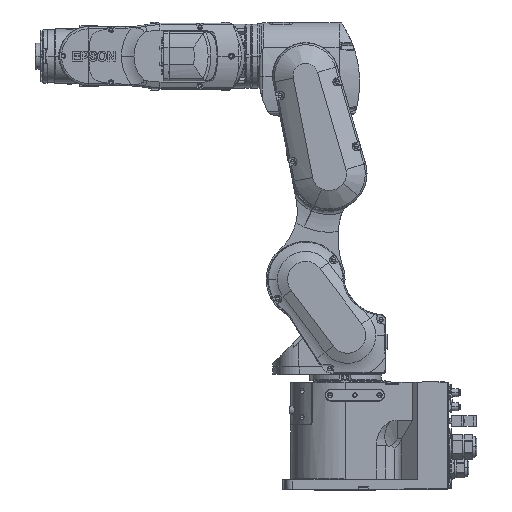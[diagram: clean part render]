
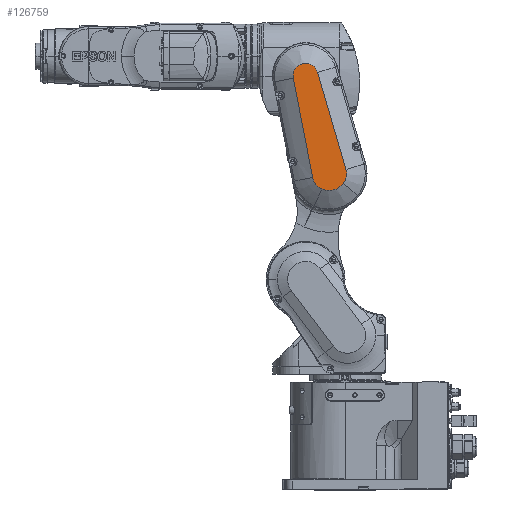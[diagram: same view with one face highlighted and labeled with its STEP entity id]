
A CAD part, top view. The second image highlights one B-rep face of the part: STEP entity #126759.
In plain terms, the highlighted planar face has unit normal (0, 0, 1).
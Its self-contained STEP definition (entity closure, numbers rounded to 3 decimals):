
#1969 = PLANE ( 'NONE',  #50852 ) ;
#8713 = CARTESIAN_POINT ( 'NONE',  ( 10.716, 155.267, 110. ) ) ;
#16676 = CIRCLE ( 'NONE', #130131, 23.991 ) ;
#18856 = CARTESIAN_POINT ( 'NONE',  ( 34.266, 159.843, 110. ) ) ;
#28558 = CARTESIAN_POINT ( 'NONE',  ( -18.644, 306.381, 110. ) ) ;
#29736 = VERTEX_POINT ( 'NONE', #168322 ) ;
#32246 = EDGE_CURVE ( 'NONE', #159462, #163701, #180164, .T. ) ;
#39326 = ORIENTED_EDGE ( 'NONE', *, *, #146916, .T. ) ;
#43942 = AXIS2_PLACEMENT_3D ( 'NONE', #80257, #79273, #124942 ) ;
#48838 = AXIS2_PLACEMENT_3D ( 'NONE', #64517, #61490, #184477 ) ;
#49805 = CARTESIAN_POINT ( 'NONE',  ( 38.41, 160.837, 110. ) ) ;
#49879 = VERTEX_POINT ( 'NONE', #69159 ) ;
#50852 = AXIS2_PLACEMENT_3D ( 'NONE', #63057, #125863, #187996 ) ;
#52900 = LINE ( 'NONE', #82286, #119099 ) ;
#58001 = CARTESIAN_POINT ( 'NONE',  ( 18.231, 315.323, 110. ) ) ;
#61490 = DIRECTION ( 'NONE',  ( 0., 0., 1. ) ) ;
#63057 = CARTESIAN_POINT ( 'NONE',  ( 24.508, 137.926, 110. ) ) ;
#64517 = CARTESIAN_POINT ( 'NONE',  ( 0.003, 309.993, 110. ) ) ;
#67366 = CARTESIAN_POINT ( 'NONE',  ( 61.437, 167.571, 110. ) ) ;
#69159 = CARTESIAN_POINT ( 'NONE',  ( 24.508, 137.926, 110. ) ) ;
#76389 = DIRECTION ( 'NONE',  ( -0.281, 0.96, 0. ) ) ;
#76873 = EDGE_CURVE ( 'NONE', #163701, #154359, #52900, .T. ) ;
#77457 = ORIENTED_EDGE ( 'NONE', *, *, #186078, .T. ) ;
#78841 = AXIS2_PLACEMENT_3D ( 'NONE', #49805, #124838, #191011 ) ;
#79273 = DIRECTION ( 'NONE',  ( 0., 0., 1. ) ) ;
#80257 = CARTESIAN_POINT ( 'NONE',  ( 35.69, 163.04, 110. ) ) ;
#81762 = DIRECTION ( 'NONE',  ( -0.982, -0.191, 0. ) ) ;
#82286 = CARTESIAN_POINT ( 'NONE',  ( -18.644, 306.381, 110. ) ) ;
#84113 = ORIENTED_EDGE ( 'NONE', *, *, #32246, .T. ) ;
#85434 = VECTOR ( 'NONE', #76389, 1000. ) ;
#87250 = EDGE_CURVE ( 'NONE', #195575, #174202, #90589, .T. ) ;
#90589 = LINE ( 'NONE', #153628, #85434 ) ;
#92405 = CIRCLE ( 'NONE', #43942, 27.491 ) ;
#106957 = EDGE_LOOP ( 'NONE', ( #77457, #84113, #138456, #153985, #116954, #39326, #188763 ) ) ;
#116954 = ORIENTED_EDGE ( 'NONE', *, *, #178841, .T. ) ;
#119099 = VECTOR ( 'NONE', #194101, 1000. ) ;
#123200 = CIRCLE ( 'NONE', #48838, 18.991 ) ;
#124838 = DIRECTION ( 'NONE',  ( 0., 0., 1. ) ) ;
#124942 = DIRECTION ( 'NONE',  ( -0.407, -0.914, 0. ) ) ;
#125428 = DIRECTION ( 'NONE',  ( 0., 0., 1. ) ) ;
#125863 = DIRECTION ( 'NONE',  ( 0., 0., -1. ) ) ;
#126759 = ADVANCED_FACE ( 'NONE', ( #156448 ), #1969, .F. ) ;
#130131 = AXIS2_PLACEMENT_3D ( 'NONE', #18856, #125428, #81762 ) ;
#133482 = EDGE_CURVE ( 'NONE', #154359, #49879, #16676, .T. ) ;
#138456 = ORIENTED_EDGE ( 'NONE', *, *, #76873, .T. ) ;
#143805 = CIRCLE ( 'NONE', #78841, 23.991 ) ;
#146916 = EDGE_CURVE ( 'NONE', #29736, #195575, #143805, .T. ) ;
#151616 = CARTESIAN_POINT ( 'NONE',  ( -18.641, 306.382, 110. ) ) ;
#153628 = CARTESIAN_POINT ( 'NONE',  ( 61.437, 167.571, 110. ) ) ;
#153852 = CARTESIAN_POINT ( 'NONE',  ( -18.641, 306.382, 110. ) ) ;
#153985 = ORIENTED_EDGE ( 'NONE', *, *, #133482, .T. ) ;
#154359 = VERTEX_POINT ( 'NONE', #8713 ) ;
#156448 = FACE_OUTER_BOUND ( 'NONE', #106957, .T. ) ;
#159462 = VERTEX_POINT ( 'NONE', #153852 ) ;
#163701 = VERTEX_POINT ( 'NONE', #28558 ) ;
#168322 = CARTESIAN_POINT ( 'NONE',  ( 57.055, 145.739, 110. ) ) ;
#174202 = VERTEX_POINT ( 'NONE', #58001 ) ;
#176345 = VECTOR ( 'NONE', #183205, 1000. ) ;
#178841 = EDGE_CURVE ( 'NONE', #49879, #29736, #92405, .T. ) ;
#180164 = LINE ( 'NONE', #151616, #176345 ) ;
#183205 = DIRECTION ( 'NONE',  ( -0.982, -0.191, 0. ) ) ;
#184477 = DIRECTION ( 'NONE',  ( -1., 0., 0. ) ) ;
#186078 = EDGE_CURVE ( 'NONE', #174202, #159462, #123200, .T. ) ;
#187996 = DIRECTION ( 'NONE',  ( 0., -1., 0. ) ) ;
#188763 = ORIENTED_EDGE ( 'NONE', *, *, #87250, .T. ) ;
#191011 = DIRECTION ( 'NONE',  ( 0.777, -0.629, 0. ) ) ;
#194101 = DIRECTION ( 'NONE',  ( 0.191, -0.982, 0. ) ) ;
#195575 = VERTEX_POINT ( 'NONE', #67366 ) ;
